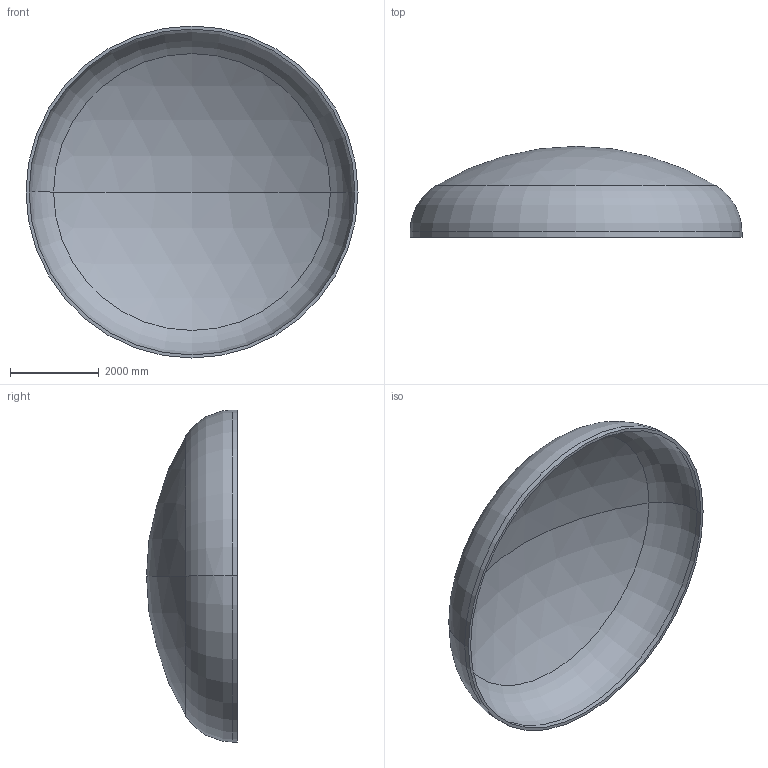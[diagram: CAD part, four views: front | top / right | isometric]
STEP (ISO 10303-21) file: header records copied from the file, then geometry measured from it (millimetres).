
FILE_DESCRIPTION (( 'STEP AP203' ), '1' );
FILE_NAME ('DIN 28013 Korbbogenform_-_Boden DIN 28013 - 7500 x 120 - I - s=70.step', '2016-07-04T10:55:34', ( '' ), ( '' ), 'SwSTEP 2.0', 'SolidWorks 2013', '' );
FILE_SCHEMA (( 'CONFIG_CONTROL_DESIGN' ));
Length unit declared in the file: millimetre
Products named in the file (1): DIN 28013 Korbbogenform_-_Boden DIN 28013 - 7500 x 120 - I - s=70
Bounding box: 7500 x 2054.98 x 7500 mm (x, y, z)
Volume: 4426612657.2 mm3; surface area: 128118803.3 mm2
Topology: 1 solids, 1 shells, 13 faces, 24 edges, 14 vertices
Faces by surface type: torus 4, cylinder 4, sphere 4, plane 1
Entity records: 407 total; most frequent: DIRECTION 72, CARTESIAN_POINT 52, ORIENTED_EDGE 48, AXIS2_PLACEMENT_3D 34, EDGE_CURVE 24, CIRCLE 20, VERTEX_POINT 14, EDGE_LOOP 14
